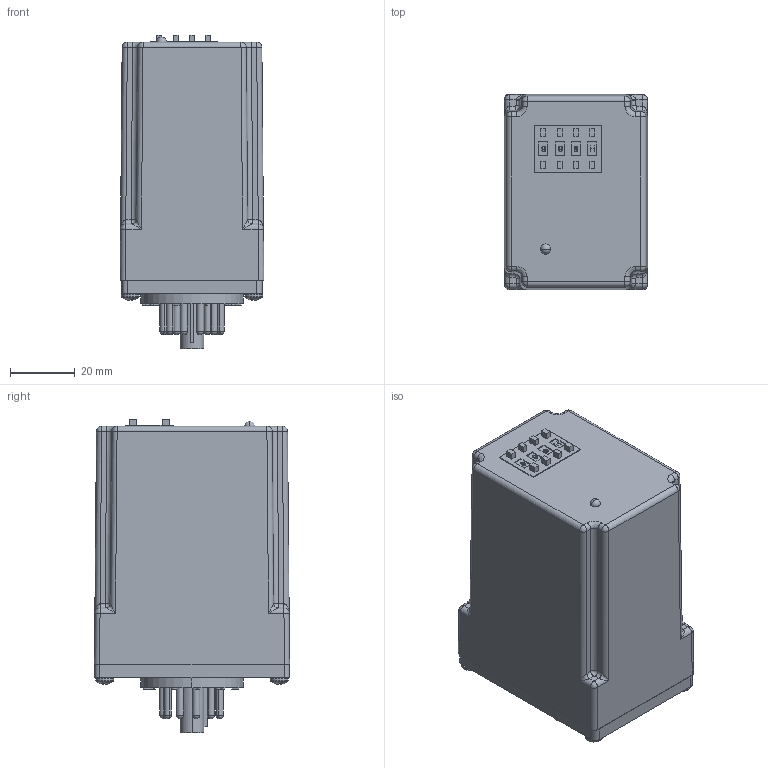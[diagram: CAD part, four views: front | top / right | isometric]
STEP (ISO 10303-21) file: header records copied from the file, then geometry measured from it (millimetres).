
FILE_DESCRIPTION (( 'STEP AP203' ), '1' );
FILE_NAME ('TD-7-Single Function.step', '2014-09-05T02:53:49', ( 'JLohr' ), ( '' ), 'SwSTEP 2.0', 'SolidWorks 2007', '' );
FILE_SCHEMA (( 'CONFIG_CONTROL_DESIGN' ));
Length unit declared in the file: inch
Products named in the file (1): TD-7-Single Function
Bounding box: 44.45 x 60.33 x 96.9 mm (x, y, z)
Volume: 200896.6 mm3; surface area: 29185 mm2
Topology: 23 solids, 23 shells, 860 faces, 2265 edges, 1452 vertices
Faces by surface type: plane 339, cylinder 274, bspline 171, cone 40, sphere 36
Entity records: 40502 total; most frequent: CARTESIAN_POINT 21489, ORIENTED_EDGE 4402, DIRECTION 3147, EDGE_CURVE 2201, VERTEX_POINT 1428, VECTOR 1103, LINE 1103, AXIS2_PLACEMENT_3D 1022
